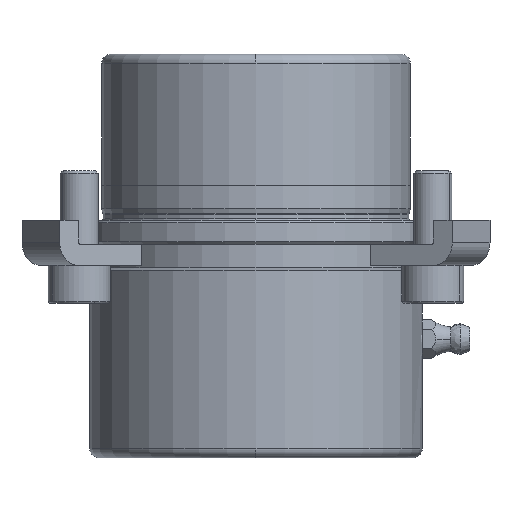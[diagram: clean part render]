
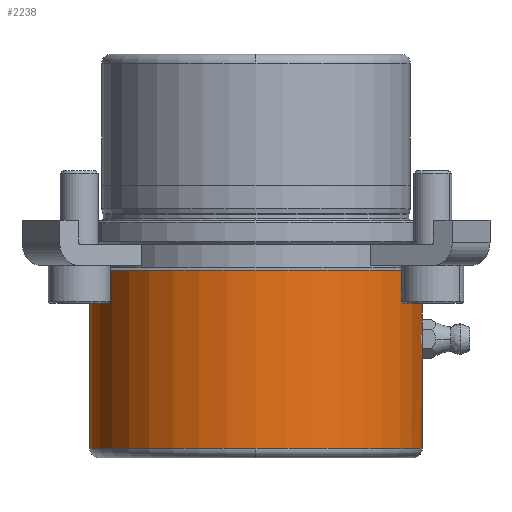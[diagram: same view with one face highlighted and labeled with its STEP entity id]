
A CAD part, front view. The second image highlights one B-rep face of the part: STEP entity #2238.
In plain terms, the highlighted cylindrical face has radius 35 mm (diameter 70 mm), a partial arc.
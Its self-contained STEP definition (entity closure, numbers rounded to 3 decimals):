
#604=CARTESIAN_POINT('',(0.,-35.,-48.));
#605=VERTEX_POINT('',#604);
#613=CARTESIAN_POINT('',(-35.0,0.,-48.));
#614=VERTEX_POINT('',#613);
#615=CARTESIAN_POINT('',(0.0,0.,-48.));
#616=DIRECTION('',(0.0,0.0,-1.0));
#617=DIRECTION('',(1.0,0.0,0.0));
#618=AXIS2_PLACEMENT_3D('',#615,#616,#617);
#619=CIRCLE('',#618,35.0);
#620=EDGE_CURVE('',#605,#614,#619,.T.);
#637=CARTESIAN_POINT('',(35.0,0.,-48.));
#638=VERTEX_POINT('',#637);
#639=CARTESIAN_POINT('',(35.0,0.,-27.5));
#640=VERTEX_POINT('',#639);
#641=CARTESIAN_POINT('',(35.0,0.,-48.));
#642=DIRECTION('',(0.0,0.0,1.0));
#643=VECTOR('',#642,20.5);
#644=LINE('',#641,#643);
#645=EDGE_CURVE('',#638,#640,#644,.T.);
#655=CARTESIAN_POINT('',(-35.0,0.,-10.5));
#656=VERTEX_POINT('',#655);
#657=CARTESIAN_POINT('',(-35.0,0.,-48.));
#658=DIRECTION('',(0.0,0.0,1.0));
#659=VECTOR('',#658,37.5);
#660=LINE('',#657,#659);
#661=EDGE_CURVE('',#614,#656,#660,.T.);
#663=CARTESIAN_POINT('',(35.0,0.,-10.5));
#664=VERTEX_POINT('',#663);
#672=CARTESIAN_POINT('',(35.0,0.,-22.5));
#673=VERTEX_POINT('',#672);
#674=CARTESIAN_POINT('',(35.0,0.,-22.5));
#675=DIRECTION('',(0.0,0.0,1.0));
#676=VECTOR('',#675,12.0);
#677=LINE('',#674,#676);
#678=EDGE_CURVE('',#673,#664,#677,.T.);
#1579=CARTESIAN_POINT('',(34.911,-2.5,-25.0));
#1580=VERTEX_POINT('',#1579);
#1581=CARTESIAN_POINT('',(34.911,-2.5,-25.0));
#1582=CARTESIAN_POINT('',(34.911,-2.5,-24.843));
#1583=CARTESIAN_POINT('',(34.912,-2.485,-24.681));
#1584=CARTESIAN_POINT('',(34.916,-2.422,-24.358));
#1585=CARTESIAN_POINT('',(34.919,-2.373,-24.197));
#1586=CARTESIAN_POINT('',(34.928,-2.246,-23.889));
#1587=CARTESIAN_POINT('',(34.933,-2.166,-23.742));
#1588=CARTESIAN_POINT('',(34.944,-1.983,-23.469));
#1589=CARTESIAN_POINT('',(34.95,-1.879,-23.343));
#1590=CARTESIAN_POINT('',(34.961,-1.657,-23.121));
#1591=CARTESIAN_POINT('',(34.967,-1.531,-23.017));
#1592=CARTESIAN_POINT('',(34.978,-1.258,-22.834));
#1593=CARTESIAN_POINT('',(34.983,-1.111,-22.754));
#1594=CARTESIAN_POINT('',(34.991,-0.803,-22.627));
#1595=CARTESIAN_POINT('',(34.994,-0.642,-22.578));
#1596=CARTESIAN_POINT('',(34.999,-0.319,-22.515));
#1597=CARTESIAN_POINT('',(35.0,-0.157,-22.5));
#1598=CARTESIAN_POINT('',(35.0,0.,-22.5));
#1599=B_SPLINE_CURVE_WITH_KNOTS('',3,(#1581,#1582,#1583,#1584,#1585,#1586,#1587,#1588,#1589,#1590,#1591,#1592,#1593,#1594,#1595,#1596,#1597,#1598),.UNSPECIFIED.,.F.,.U.,(4,2,2,2,2,2,2,2,4),(0.0,0.471,0.942,1.413,1.884,2.355,2.826,3.297,3.768),.UNSPECIFIED.);
#1600=EDGE_CURVE('',#1580,#673,#1599,.T.);
#1602=CARTESIAN_POINT('',(35.0,0.,-27.5));
#1603=CARTESIAN_POINT('',(35.0,-0.157,-27.5));
#1604=CARTESIAN_POINT('',(34.999,-0.319,-27.485));
#1605=CARTESIAN_POINT('',(34.994,-0.642,-27.422));
#1606=CARTESIAN_POINT('',(34.991,-0.803,-27.373));
#1607=CARTESIAN_POINT('',(34.983,-1.111,-27.246));
#1608=CARTESIAN_POINT('',(34.978,-1.258,-27.166));
#1609=CARTESIAN_POINT('',(34.967,-1.531,-26.983));
#1610=CARTESIAN_POINT('',(34.961,-1.657,-26.879));
#1611=CARTESIAN_POINT('',(34.95,-1.879,-26.657));
#1612=CARTESIAN_POINT('',(34.944,-1.983,-26.531));
#1613=CARTESIAN_POINT('',(34.933,-2.166,-26.258));
#1614=CARTESIAN_POINT('',(34.928,-2.246,-26.111));
#1615=CARTESIAN_POINT('',(34.919,-2.373,-25.803));
#1616=CARTESIAN_POINT('',(34.916,-2.422,-25.642));
#1617=CARTESIAN_POINT('',(34.912,-2.485,-25.319));
#1618=CARTESIAN_POINT('',(34.911,-2.5,-25.157));
#1619=CARTESIAN_POINT('',(34.911,-2.5,-25.0));
#1620=B_SPLINE_CURVE_WITH_KNOTS('',3,(#1602,#1603,#1604,#1605,#1606,#1607,#1608,#1609,#1610,#1611,#1612,#1613,#1614,#1615,#1616,#1617,#1618,#1619),.UNSPECIFIED.,.F.,.U.,(4,2,2,2,2,2,2,2,4),(11.305,11.776,12.247,12.718,13.189,13.66,14.131,14.602,15.073),.UNSPECIFIED.);
#1621=EDGE_CURVE('',#640,#1580,#1620,.T.);
#2207=CARTESIAN_POINT('',(0.0,0.,-10.5));
#2208=DIRECTION('',(0.0,0.0,-1.0));
#2209=DIRECTION('',(1.0,0.0,0.0));
#2210=AXIS2_PLACEMENT_3D('',#2207,#2208,#2209);
#2211=CIRCLE('',#2210,35.0);
#2212=EDGE_CURVE('',#664,#656,#2211,.T.);
#2217=CARTESIAN_POINT('',(0.0,0.,-29.25));
#2218=DIRECTION('',(0.0,0.,-1.0));
#2219=DIRECTION('',(1.0,0.0,0.0));
#2220=AXIS2_PLACEMENT_3D('',#2217,#2218,#2219);
#2221=CYLINDRICAL_SURFACE('',#2220,35.0);
#2222=ORIENTED_EDGE('',*,*,#645,.T.);
#2223=ORIENTED_EDGE('',*,*,#1621,.T.);
#2224=ORIENTED_EDGE('',*,*,#1600,.T.);
#2225=ORIENTED_EDGE('',*,*,#678,.T.);
#2226=ORIENTED_EDGE('',*,*,#2212,.T.);
#2227=ORIENTED_EDGE('',*,*,#661,.F.);
#2228=ORIENTED_EDGE('',*,*,#620,.F.);
#2229=CARTESIAN_POINT('',(0.0,0.,-48.));
#2230=DIRECTION('',(0.0,0.0,-1.0));
#2231=DIRECTION('',(1.0,0.0,0.0));
#2232=AXIS2_PLACEMENT_3D('',#2229,#2230,#2231);
#2233=CIRCLE('',#2232,35.0);
#2234=EDGE_CURVE('',#638,#605,#2233,.T.);
#2235=ORIENTED_EDGE('',*,*,#2234,.F.);
#2236=EDGE_LOOP('',(#2222,#2223,#2224,#2225,#2226,#2227,#2228,#2235));
#2237=FACE_OUTER_BOUND('',#2236,.T.);
#2238=ADVANCED_FACE('',(#2237),#2221,.T.);
